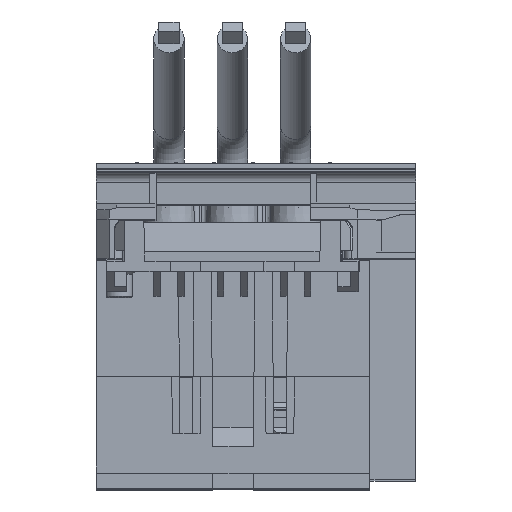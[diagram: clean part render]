
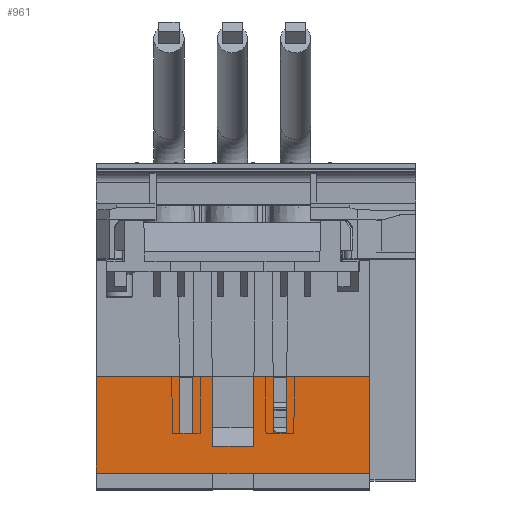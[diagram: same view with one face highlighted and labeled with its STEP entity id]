
A CAD part, top view. The second image highlights one B-rep face of the part: STEP entity #961.
In plain terms, the highlighted planar face has unit normal (0, -0.009, 1).
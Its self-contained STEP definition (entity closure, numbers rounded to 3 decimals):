
#343 = VERTEX_POINT ( 'NONE', #66910 ) ;
#961 = ADVANCED_FACE ( 'NONE', ( #94318 ), #49187, .T. ) ;
#1163 = DIRECTION ( 'NONE',  ( 1., 0., 0. ) ) ;
#1365 = DIRECTION ( 'NONE',  ( -0.009, 1., 0.009 ) ) ;
#3324 = VERTEX_POINT ( 'NONE', #10362 ) ;
#3368 = EDGE_CURVE ( 'NONE', #36854, #85792, #78011, .T. ) ;
#3409 = DIRECTION ( 'NONE',  ( -0.009, 1., 0.009 ) ) ;
#4041 = ORIENTED_EDGE ( 'NONE', *, *, #6204, .T. ) ;
#4233 = ORIENTED_EDGE ( 'NONE', *, *, #95177, .F. ) ;
#6204 = EDGE_CURVE ( 'NONE', #60077, #106767, #92521, .T. ) ;
#6250 = VECTOR ( 'NONE', #89586, 1000. ) ;
#7080 = LINE ( 'NONE', #17097, #50046 ) ;
#7706 = CARTESIAN_POINT ( 'NONE',  ( -10.5, -15.7, 199.902 ) ) ;
#10362 = CARTESIAN_POINT ( 'NONE',  ( 4.122, -4.5, 199.999 ) ) ;
#10456 = ORIENTED_EDGE ( 'NONE', *, *, #99593, .T. ) ;
#10493 = CARTESIAN_POINT ( 'NONE',  ( -4., -23.5, 199.833 ) ) ;
#11383 = EDGE_CURVE ( 'NONE', #106767, #36854, #89090, .T. ) ;
#12909 = VECTOR ( 'NONE', #103092, 1000. ) ;
#14802 = AXIS2_PLACEMENT_3D ( 'NONE', #91733, #40173, #100333 ) ;
#15221 = VECTOR ( 'NONE', #3409, 1000. ) ;
#15324 = LINE ( 'NONE', #41093, #104072 ) ;
#16190 = EDGE_CURVE ( 'NONE', #73449, #100511, #62714, .T. ) ;
#17097 = CARTESIAN_POINT ( 'NONE',  ( 4., -23.5, 199.833 ) ) ;
#17687 = EDGE_CURVE ( 'NONE', #68321, #93190, #47562, .T. ) ;
#17734 = CARTESIAN_POINT ( 'NONE',  ( -26., -15.7, 199.902 ) ) ;
#17740 = LINE ( 'NONE', #17734, #80966 ) ;
#18009 = CARTESIAN_POINT ( 'NONE',  ( -26., -4.5, 199.999 ) ) ;
#18173 = VECTOR ( 'NONE', #22530, 1000. ) ;
#18349 = DIRECTION ( 'NONE',  ( -0.009, -1., -0.009 ) ) ;
#20735 = EDGE_CURVE ( 'NONE', #46199, #92475, #17740, .T. ) ;
#20977 = EDGE_LOOP ( 'NONE', ( #47474, #98668, #65029, #25837, #67673, #25311, #23608, #4041, #48791, #89984, #4233, #97413, #10456, #24526, #97136, #27656, #93756, #24752 ) ) ;
#21692 = VECTOR ( 'NONE', #36309, 1000. ) ;
#22530 = DIRECTION ( 'NONE',  ( 1., 0., 0. ) ) ;
#22813 = CARTESIAN_POINT ( 'NONE',  ( -8., -15.7, 199.902 ) ) ;
#23608 = ORIENTED_EDGE ( 'NONE', *, *, #76407, .F. ) ;
#24218 = VECTOR ( 'NONE', #24720, 1000. ) ;
#24526 = ORIENTED_EDGE ( 'NONE', *, *, #68371, .T. ) ;
#24681 = CARTESIAN_POINT ( 'NONE',  ( 4., -23.5, 199.833 ) ) ;
#24720 = DIRECTION ( 'NONE',  ( 1., 0., 0. ) ) ;
#24752 = ORIENTED_EDGE ( 'NONE', *, *, #85824, .T. ) ;
#25311 = ORIENTED_EDGE ( 'NONE', *, *, #101759, .T. ) ;
#25837 = ORIENTED_EDGE ( 'NONE', *, *, #28200, .T. ) ;
#25852 = VECTOR ( 'NONE', #70178, 1000. ) ;
#26093 = VECTOR ( 'NONE', #1163, 1000. ) ;
#26272 = CARTESIAN_POINT ( 'NONE',  ( -26., -4.5, 199.999 ) ) ;
#26365 = CARTESIAN_POINT ( 'NONE',  ( 10.5, -15.7, 199.902 ) ) ;
#26880 = CARTESIAN_POINT ( 'NONE',  ( 8., -15.7, 199.902 ) ) ;
#27436 = LINE ( 'NONE', #52790, #61135 ) ;
#27656 = ORIENTED_EDGE ( 'NONE', *, *, #36984, .T. ) ;
#28200 = EDGE_CURVE ( 'NONE', #81980, #73449, #87625, .T. ) ;
#28324 = VERTEX_POINT ( 'NONE', #60826 ) ;
#35617 = LINE ( 'NONE', #18009, #78718 ) ;
#36309 = DIRECTION ( 'NONE',  ( 1., 0., 0. ) ) ;
#36345 = EDGE_CURVE ( 'NONE', #68321, #98010, #73019, .T. ) ;
#36854 = VERTEX_POINT ( 'NONE', #84168 ) ;
#36984 = EDGE_CURVE ( 'NONE', #108947, #46199, #49854, .T. ) ;
#37808 = VECTOR ( 'NONE', #18349, 1000. ) ;
#39792 = DIRECTION ( 'NONE',  ( -0.009, -1., -0.009 ) ) ;
#40173 = DIRECTION ( 'NONE',  ( 0., -0.009, 1. ) ) ;
#40825 = CARTESIAN_POINT ( 'NONE',  ( -27., -23.5, 199.833 ) ) ;
#40863 = EDGE_CURVE ( 'NONE', #3324, #53361, #77537, .T. ) ;
#41093 = CARTESIAN_POINT ( 'NONE',  ( 27., 18.5, 200.2 ) ) ;
#46199 = VERTEX_POINT ( 'NONE', #22813 ) ;
#47474 = ORIENTED_EDGE ( 'NONE', *, *, #17687, .F. ) ;
#47562 = LINE ( 'NONE', #26272, #26093 ) ;
#48637 = DIRECTION ( 'NONE',  ( 0., 1., 0.009 ) ) ;
#48646 = CARTESIAN_POINT ( 'NONE',  ( 27., -23.5, 199.833 ) ) ;
#48791 = ORIENTED_EDGE ( 'NONE', *, *, #11383, .T. ) ;
#49187 = PLANE ( 'NONE',  #14802 ) ;
#49330 = CARTESIAN_POINT ( 'NONE',  ( -7.902, -4.5, 199.999 ) ) ;
#49854 = LINE ( 'NONE', #69854, #37808 ) ;
#50046 = VECTOR ( 'NONE', #77258, 1000. ) ;
#50081 = VECTOR ( 'NONE', #88023, 1000. ) ;
#52790 = CARTESIAN_POINT ( 'NONE',  ( -4.003, -18.18, 199.88 ) ) ;
#53032 = DIRECTION ( 'NONE',  ( -1., 0., 0. ) ) ;
#53361 = VERTEX_POINT ( 'NONE', #65782 ) ;
#56844 = CARTESIAN_POINT ( 'NONE',  ( -26., -18.18, 199.88 ) ) ;
#60077 = VERTEX_POINT ( 'NONE', #98044 ) ;
#60826 = CARTESIAN_POINT ( 'NONE',  ( -4.003, -18.18, 199.88 ) ) ;
#61135 = VECTOR ( 'NONE', #1365, 1000. ) ;
#61170 = CARTESIAN_POINT ( 'NONE',  ( -26., -15.7, 199.902 ) ) ;
#61511 = DIRECTION ( 'NONE',  ( -0.009, 1., 0.009 ) ) ;
#62363 = CARTESIAN_POINT ( 'NONE',  ( -26., -23.5, 199.833 ) ) ;
#62714 = LINE ( 'NONE', #62363, #101600 ) ;
#63888 = CARTESIAN_POINT ( 'NONE',  ( -10.5, -15.7, 199.902 ) ) ;
#65029 = ORIENTED_EDGE ( 'NONE', *, *, #106259, .T. ) ;
#65460 = LINE ( 'NONE', #56844, #6250 ) ;
#65782 = CARTESIAN_POINT ( 'NONE',  ( 4.003, -18.18, 199.88 ) ) ;
#66343 = LINE ( 'NONE', #63888, #15221 ) ;
#66910 = CARTESIAN_POINT ( 'NONE',  ( 27., -4.5, 199.999 ) ) ;
#67673 = ORIENTED_EDGE ( 'NONE', *, *, #16190, .T. ) ;
#67948 = EDGE_CURVE ( 'NONE', #108947, #68259, #35617, .T. ) ;
#68259 = VERTEX_POINT ( 'NONE', #84801 ) ;
#68321 = VERTEX_POINT ( 'NONE', #69000 ) ;
#68371 = EDGE_CURVE ( 'NONE', #28324, #68259, #27436, .T. ) ;
#68546 = CARTESIAN_POINT ( 'NONE',  ( 4.303, 16.2, 200.18 ) ) ;
#69000 = CARTESIAN_POINT ( 'NONE',  ( -27., -4.5, 199.999 ) ) ;
#69147 = DIRECTION ( 'NONE',  ( 1., 0., 0. ) ) ;
#69854 = CARTESIAN_POINT ( 'NONE',  ( -7.722, 16.2, 200.18 ) ) ;
#70178 = DIRECTION ( 'NONE',  ( -1., 0., 0. ) ) ;
#70262 = DIRECTION ( 'NONE',  ( 1., 0., 0. ) ) ;
#70672 = CARTESIAN_POINT ( 'NONE',  ( 7.902, -4.5, 199.999 ) ) ;
#73019 = LINE ( 'NONE', #110975, #50081 ) ;
#73449 = VERTEX_POINT ( 'NONE', #24681 ) ;
#76407 = EDGE_CURVE ( 'NONE', #60077, #343, #78708, .T. ) ;
#77258 = DIRECTION ( 'NONE',  ( 1., 0., 0. ) ) ;
#77537 = LINE ( 'NONE', #68546, #12909 ) ;
#78011 = LINE ( 'NONE', #26880, #83379 ) ;
#78708 = LINE ( 'NONE', #91739, #18173 ) ;
#78718 = VECTOR ( 'NONE', #69147, 1000. ) ;
#80966 = VECTOR ( 'NONE', #53032, 1000. ) ;
#81980 = VERTEX_POINT ( 'NONE', #10493 ) ;
#82270 = LINE ( 'NONE', #87869, #21692 ) ;
#83379 = VECTOR ( 'NONE', #61511, 1000. ) ;
#84168 = CARTESIAN_POINT ( 'NONE',  ( 8., -15.7, 199.902 ) ) ;
#84801 = CARTESIAN_POINT ( 'NONE',  ( -4.122, -4.5, 199.999 ) ) ;
#85792 = VERTEX_POINT ( 'NONE', #70672 ) ;
#85824 = EDGE_CURVE ( 'NONE', #92475, #93190, #66343, .T. ) ;
#87625 = LINE ( 'NONE', #101783, #24218 ) ;
#87869 = CARTESIAN_POINT ( 'NONE',  ( -26., -4.5, 199.999 ) ) ;
#88023 = DIRECTION ( 'NONE',  ( 0., -1., -0.009 ) ) ;
#89090 = LINE ( 'NONE', #61170, #25852 ) ;
#89586 = DIRECTION ( 'NONE',  ( -1., 0., 0. ) ) ;
#89814 = VECTOR ( 'NONE', #39792, 1000. ) ;
#89984 = ORIENTED_EDGE ( 'NONE', *, *, #3368, .T. ) ;
#91733 = CARTESIAN_POINT ( 'NONE',  ( -26., 18.5, 200.2 ) ) ;
#91739 = CARTESIAN_POINT ( 'NONE',  ( -26., -4.5, 199.999 ) ) ;
#92475 = VERTEX_POINT ( 'NONE', #7706 ) ;
#92521 = LINE ( 'NONE', #98827, #89814 ) ;
#93190 = VERTEX_POINT ( 'NONE', #94241 ) ;
#93756 = ORIENTED_EDGE ( 'NONE', *, *, #20735, .T. ) ;
#94241 = CARTESIAN_POINT ( 'NONE',  ( -10.598, -4.5, 199.999 ) ) ;
#94318 = FACE_OUTER_BOUND ( 'NONE', #20977, .T. ) ;
#95177 = EDGE_CURVE ( 'NONE', #3324, #85792, #82270, .T. ) ;
#97136 = ORIENTED_EDGE ( 'NONE', *, *, #67948, .F. ) ;
#97413 = ORIENTED_EDGE ( 'NONE', *, *, #40863, .T. ) ;
#98010 = VERTEX_POINT ( 'NONE', #40825 ) ;
#98044 = CARTESIAN_POINT ( 'NONE',  ( 10.598, -4.5, 199.999 ) ) ;
#98668 = ORIENTED_EDGE ( 'NONE', *, *, #36345, .T. ) ;
#98827 = CARTESIAN_POINT ( 'NONE',  ( 10.778, 16.2, 200.18 ) ) ;
#99593 = EDGE_CURVE ( 'NONE', #53361, #28324, #65460, .T. ) ;
#100333 = DIRECTION ( 'NONE',  ( 0., -1., -0.009 ) ) ;
#100511 = VERTEX_POINT ( 'NONE', #48646 ) ;
#101600 = VECTOR ( 'NONE', #70262, 1000. ) ;
#101759 = EDGE_CURVE ( 'NONE', #100511, #343, #15324, .T. ) ;
#101783 = CARTESIAN_POINT ( 'NONE',  ( -26., -23.5, 199.833 ) ) ;
#103092 = DIRECTION ( 'NONE',  ( -0.009, -1., -0.009 ) ) ;
#104072 = VECTOR ( 'NONE', #48637, 1000. ) ;
#106259 = EDGE_CURVE ( 'NONE', #98010, #81980, #7080, .T. ) ;
#106767 = VERTEX_POINT ( 'NONE', #26365 ) ;
#108947 = VERTEX_POINT ( 'NONE', #49330 ) ;
#110975 = CARTESIAN_POINT ( 'NONE',  ( -27., 18.5, 200.2 ) ) ;
